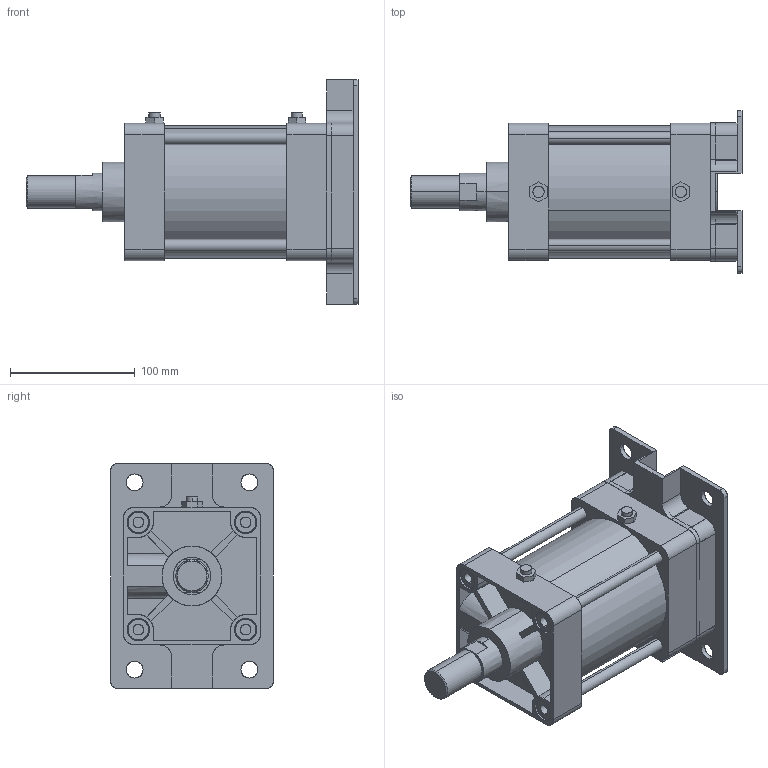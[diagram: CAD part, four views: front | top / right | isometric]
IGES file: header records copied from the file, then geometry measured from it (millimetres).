
Start section: SolidWorks IGES file using analytic representation for surfaces
Global section: file name: C:\Users\Toshiba\Desktop\KG2-100-50-B.IGS; native system: SolidWorks 2014; preprocessor: SolidWorks 2014; author: Toshiba; date: 160401.162222; units: millimetre
Bounding box: 266 x 130 x 180 mm (x, y, z)
Surface area: 271789.1 mm2 (no closed solid volume)
Topology: 0 solids, 0 shells, 373 faces, 5989 edges, 5985 vertices
Faces by surface type: bspline 194, revolution 179
